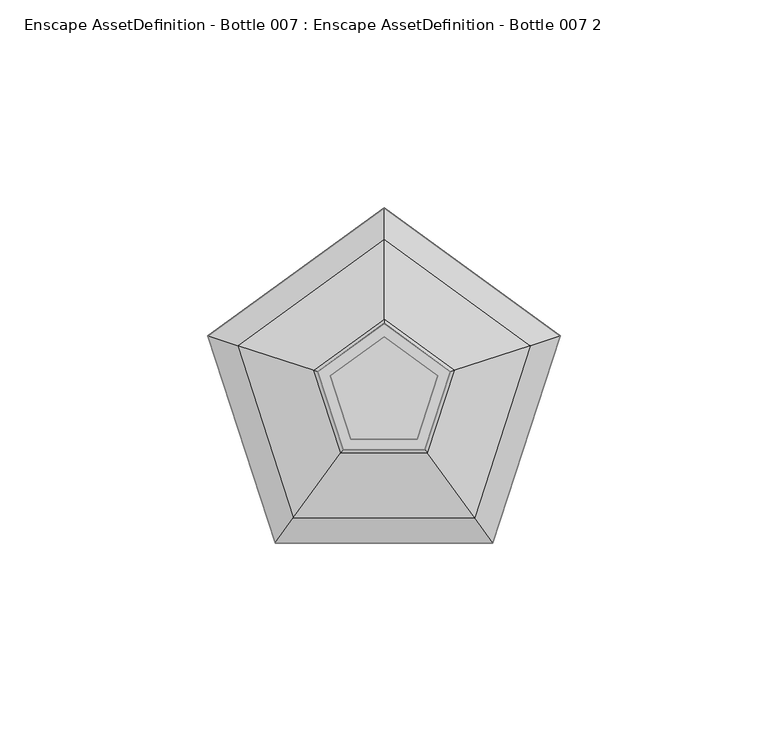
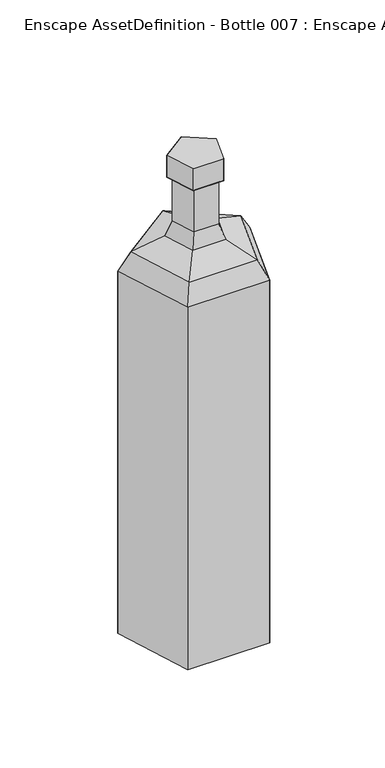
"""IFC4 building model written with IfcOpenShell, lengths in millimetres: geographic element geometry, Enscape AssetDefinition - Bottle 007 : Enscape AssetDefinition - Bottle 007 2."""

import ifcopenshell
import ifcopenshell.guid

model = None  # the IFC model being written
_history = None  # IfcOwnerHistory: only IFC2X3 demands one
_inside = {}  # id of a spatial element -> (the spatial element, [elements in it])
_under = {}  # id of a project, library or spatial element -> (it, [spatial elements below it])
_declared = {}  # id of a project -> (the project, [libraries it declares])
_typed = {}  # id of a type object -> (the type object, [elements of that type])
_made_of = {}  # id of a material, layer set ... -> (it, [elements and type objects made of it])


def new_model(schema):
    """Start an empty IFC model of exactly this schema.

    Asked for "IFC4X3", IfcOpenShell would pick the latest addendum, in which some entities
    have other attributes; the version numbers below select the first issue.
    IFC2X3 requires an IfcOwnerHistory on every rooted entity: one is made here for all.
    """
    global model, _history
    if schema == "IFC4X3":
        model = ifcopenshell.file(schema_version=(4, 3, 0, 0))
    else:
        model = ifcopenshell.file(schema=schema)
    _inside.clear()
    _under.clear()
    _declared.clear()
    _typed.clear()
    _made_of.clear()
    _history = None
    if model.schema == "IFC2X3":
        org = make("IfcOrganization", Name="unknown")
        user = make(
            "IfcPersonAndOrganization",
            ThePerson=make("IfcPerson", FamilyName="unknown"),
            TheOrganization=org,
        )
        app = make(
            "IfcApplication",
            ApplicationDeveloper=org,
            Version="unknown",
            ApplicationFullName="unknown",
            ApplicationIdentifier="unknown",
        )
        _history = make(
            "IfcOwnerHistory",
            OwningUser=user,
            OwningApplication=app,
            ChangeAction="ADDED",
            CreationDate=0,
        )
    return model


def make(cls, **values):
    """One entity of the class cls with the attributes given. An attribute that is None is left unset."""
    return model.create_entity(
        cls, **{name: value for name, value in values.items() if value is not None}
    )


def rooted(cls, **values):
    """An entity with a GlobalId (a new one), such as an element, a storey or a relation."""
    return make(cls, GlobalId=ifcopenshell.guid.new(), OwnerHistory=_history, **values)


def si_unit(unit_type, name, prefix=None):
    """IfcSIUnit, for example si_unit("LENGTHUNIT", "METRE", prefix="MILLI")."""
    return make("IfcSIUnit", UnitType=unit_type, Prefix=prefix, Name=name)


def assignment(units):
    """IfcUnitAssignment: the units of a project."""
    return None if units is None else make("IfcUnitAssignment", Units=units)


def point(xyz):
    """IfcCartesianPoint."""
    return None if xyz is None else make("IfcCartesianPoint", Coordinates=xyz)


def direction(xyz):
    """IfcDirection."""
    return None if xyz is None else make("IfcDirection", DirectionRatios=xyz)


def frame(location, z_axis=None, x_axis=None):
    """IfcAxis2Placement3D, a coordinate frame: its origin and axes. An axis left out is left unset."""
    return make(
        "IfcAxis2Placement3D",
        Location=point(location),
        Axis=direction(z_axis),
        RefDirection=direction(x_axis),
    )


def origin():
    """The frame at (0, 0, 0) with its axes left unset."""
    return frame((0.0, 0.0, 0.0))


def place(relative_to, where):
    """IfcLocalPlacement: puts the frame where relative to a parent placement (None: the world)."""
    return make(
        "IfcLocalPlacement", PlacementRelTo=relative_to, RelativePlacement=where
    )


def context(
    kind, dimensions, precision=None, world=None, true_north=None, identifier=None
):
    """IfcGeometricRepresentationContext, for example the 3D "Model" context."""
    return make(
        "IfcGeometricRepresentationContext",
        ContextIdentifier=identifier,
        ContextType=kind,
        CoordinateSpaceDimension=dimensions,
        Precision=precision,
        WorldCoordinateSystem=world,
        TrueNorth=true_north,
    )


def project(units=None, contexts=None):
    """IfcProject with its units and contexts."""
    return rooted(
        "IfcProject",
        Name="project",
        RepresentationContexts=contexts,
        UnitsInContext=assignment(units),
    )


def spatial(cls, under=None, at=None, **own):
    """A site, building, storey or space (cls), placed at a placement, below another one or the project."""
    s = rooted(cls, ObjectPlacement=at, **own)
    if under is not None:
        _under.setdefault(under.id(), (under, []))[1].append(s)
    return s


def point_list(points):
    """IfcCartesianPointList2D or 3D."""
    cls = (
        "IfcCartesianPointList2D" if len(points[0]) == 2 else "IfcCartesianPointList3D"
    )
    return make(cls, CoordList=points)


def triangles(points, corners, closed=None, point_numbers=None):
    """IfcTriangulatedFaceSet: each triangle names its three corners, points numbered from 1."""
    return make(
        "IfcTriangulatedFaceSet",
        Coordinates=point_list(points),
        Closed=closed,
        CoordIndex=corners,
        PnIndex=point_numbers,
    )


def shape(context_of_items, identifier, shape_type, items):
    """IfcShapeRepresentation: the items that make up one representation, for example the "Body"."""
    return make(
        "IfcShapeRepresentation",
        ContextOfItems=context_of_items,
        RepresentationIdentifier=identifier,
        RepresentationType=shape_type,
        Items=items,
    )


def source(mapping_origin, context_of_items, identifier, shape_type, items):
    """IfcRepresentationMap: a shape defined once, which mapped items show again and again."""
    return make(
        "IfcRepresentationMap",
        MappingOrigin=mapping_origin,
        MappedRepresentation=shape(context_of_items, identifier, shape_type, items),
    )


def transform(
    local_origin,
    x_axis=None,
    y_axis=None,
    z_axis=None,
    scale=None,
    scale2=None,
    scale3=None,
    uniform=True,
):
    """IfcCartesianTransformationOperator3D, or its non-uniform kind. x_axis, y_axis, z_axis: its Axis1, 2, 3."""
    if uniform:
        return make(
            "IfcCartesianTransformationOperator3D",
            Axis1=direction(x_axis),
            Axis2=direction(y_axis),
            LocalOrigin=point(local_origin),
            Scale=scale,
            Axis3=direction(z_axis),
        )
    return make(
        "IfcCartesianTransformationOperator3DnonUniform",
        Axis1=direction(x_axis),
        Axis2=direction(y_axis),
        LocalOrigin=point(local_origin),
        Scale=scale,
        Axis3=direction(z_axis),
        Scale2=scale2,
        Scale3=scale3,
    )


def mapped(mapping_source, mapping_target):
    """IfcMappedItem: shows the shape of a source again, moved by a transform."""
    return make(
        "IfcMappedItem", MappingSource=mapping_source, MappingTarget=mapping_target
    )


def made_of(thing, what):
    """Note that an element or type object is made of a material, layer set ...; save() writes the relation."""
    if what is not None:
        _made_of.setdefault(what.id(), (what, []))[1].append(thing)
    return thing


def element(
    cls,
    number,
    at=None,
    inside=None,
    cuts=None,
    type_object=None,
    material=None,
    context=None,
    identifier="Body",
    shape_type=None,
    held_by="IfcProductDefinitionShape",
    body=None,
    shapes=None,
    **own,
):
    """One element of the class cls, such as IfcWall. Its Tag is "e" and its number.

    at: its placement. inside: the storey or other place that contains it. cuts: it is an
    opening in that element (IfcRelVoidsElement). A single representation is given by context,
    identifier, shape_type and body (its items); several are given by shapes. held_by: the class
    of the entity that holds the representations. save() writes the other relations.
    """
    e = rooted(cls, Tag="e%d" % number, ObjectPlacement=at, **own)
    if body is not None:
        shapes = [shape(context, identifier, shape_type, body)]
    if shapes is not None:
        e.Representation = make(held_by, Representations=shapes)
    if inside is not None:
        _inside.setdefault(inside.id(), (inside, []))[1].append(e)
    if cuts is not None:
        rooted(
            "IfcRelVoidsElement", RelatingBuildingElement=cuts, RelatedOpeningElement=e
        )
    if type_object is not None:
        _typed.setdefault(type_object.id(), (type_object, []))[1].append(e)
    return made_of(e, material)


def aggregate(whole, parts):
    """IfcRelAggregates: a whole, such as a stair, and the parts it consists of."""
    return rooted("IfcRelAggregates", RelatingObject=whole, RelatedObjects=parts)


def save(model, path):
    """Write the relations noted so far, then the file.

    IfcRelAggregates (storeys below a building ...), IfcRelContainedInSpatialStructure (elements
    in a storey), IfcRelDefinesByType, IfcRelAssociatesMaterial and IfcRelDeclares: one each for
    every whole, place, type object, material and project.
    """
    for whole, parts in _under.values():
        aggregate(whole, parts)
    for where, things in _inside.values():
        rooted(
            "IfcRelContainedInSpatialStructure",
            RelatedElements=things,
            RelatingStructure=where,
        )
    for kind, things in _typed.values():
        rooted("IfcRelDefinesByType", RelatedObjects=things, RelatingType=kind)
    for what, things in _made_of.values():
        rooted("IfcRelAssociatesMaterial", RelatedObjects=things, RelatingMaterial=what)
    for by, libraries in _declared.values():
        rooted("IfcRelDeclares", RelatingContext=by, RelatedDefinitions=libraries)
    model.write(path)


def enscape_assetdefinition_bottle_007_enscape_assetdefinition_5efa946b(model_context):
    return source(origin(), model_context, "Body", "Tessellation", [
        triangles([(26.1968635, -36.0568789, 0.0), (26.1968635, -36.0568789, 245.5309433), (-26.1968544, -36.0568789, 245.5309433), (-26.1968544, -36.0568789, 0.0), (42.3874064, 13.7725071, 245.5309433), (-42.3874064, 13.7724992, 245.5309433), (-42.3874064, 13.7724992, 0.0), (35.2397458, 11.4500937, 257.5481785), (21.7793574, -29.9767109, 257.5481785), (-21.7793574, -29.9767222, 257.5481785), (-16.9295387, 5.5007385, 265.7305824), (-35.2397458, 11.4500846, 257.5481785), (10.4630355, -14.4011297, 265.7305824), (-8.0079772, -11.0220346, 275.1929227), (-10.4630264, -14.4011297, 265.7305824), (0.0, 17.8007723, 265.7305824), (0.0, 37.0532638, 257.5481785), (0.0, 44.5687594, 245.5309433), (42.3874064, 13.7725071, 0.0), (0.0, 44.5687594, 0.0), (16.9295478, 5.5007475, 265.7305824), (0.0, 13.6239856, 275.1929227), (-12.9571738, 4.2100452, 275.1929227), (12.9571829, 4.2100452, 275.1929227), (0.0, 13.6239856, 305.2582932), (0.0, 16.7483838, 305.2582932), (12.9571829, 4.2100452, 305.2582932), (8.0079772, -11.0220346, 275.1929227), (8.0079772, -11.0220346, 305.2582932), (0.0, 16.7483838, 320.0560092), (15.928663, 5.1755431, 305.2582932), (-8.0079772, -11.0220346, 305.2582932), (15.928663, 5.1755431, 320.0560092), (9.8444572, -13.5497259, 320.0560092), (9.8444572, -13.5497259, 305.2582932), (-9.8444493, -13.5497259, 305.2582932), (-12.9571738, 4.2100452, 305.2582932), (-9.8444493, -13.5497259, 320.0560092), (0.0, 0.0, 320.0560092), (-15.928663, 5.1755346, 320.0560092), (-15.928663, 5.1755346, 305.2582932)], [[37, 41, 26], [40, 26, 41], [38, 40, 41], [38, 39, 40], [40, 30, 26], [40, 39, 30], [30, 39, 33], [33, 39, 34], [34, 39, 38], [34, 38, 36], [36, 41, 37], [38, 41, 36], [32, 37, 23], [36, 37, 32], [32, 23, 14], [33, 34, 35], [35, 36, 32], [34, 36, 35], [30, 33, 31], [33, 35, 31], [30, 31, 26], [31, 35, 29], [29, 32, 14], [35, 32, 29], [29, 14, 28], [27, 29, 28], [31, 29, 27], [25, 26, 31], [25, 31, 27], [37, 26, 25], [37, 25, 22], [37, 22, 23], [25, 27, 24], [27, 28, 24], [25, 24, 22], [13, 28, 14], [24, 28, 13], [22, 24, 21], [24, 13, 21], [23, 22, 16], [22, 21, 16], [8, 21, 13], [16, 21, 8], [5, 1, 19], [18, 5, 19], [18, 19, 20], [17, 8, 5], [17, 5, 18], [16, 8, 17], [11, 16, 17], [23, 16, 11], [15, 14, 23], [13, 14, 15], [15, 23, 11], [12, 17, 18], [15, 11, 12], [11, 17, 12], [6, 18, 20], [12, 18, 6], [6, 20, 7], [10, 12, 6], [13, 15, 10], [15, 12, 10], [8, 13, 9], [13, 10, 9], [9, 10, 3], [3, 6, 7], [10, 6, 3], [3, 7, 4], [8, 9, 2], [5, 2, 1], [2, 3, 4], [9, 3, 2], [8, 2, 5], [2, 4, 1]], closed=False),
    ])


if __name__ == "__main__":
    model = new_model("IFC4")
    model_context = context("Model", 3, world=origin())
    ifc_project = project(units=[si_unit("LENGTHUNIT", "METRE", prefix="MILLI")], contexts=[model_context])
    site = spatial("IfcSite", under=ifc_project)
    building = spatial("IfcBuilding", under=site)
    placement = place(None, origin())
    enscape_assetdefinition_bottle_007_enscape_assetdefinition_shape = enscape_assetdefinition_bottle_007_enscape_assetdefinition_5efa946b(model_context)
    element("IfcGeographicElement", 1, ObjectType="Enscape AssetDefinition - Bottle 007 : Enscape AssetDefinition - Bottle 007 2", at=placement, inside=building, context=model_context, shape_type="MappedRepresentation", body=[
        mapped(enscape_assetdefinition_bottle_007_enscape_assetdefinition_shape, transform((0.0, 0.0, 0.0), x_axis=(1.0, 0.0, 0.0), y_axis=(0.0, 1.0, 0.0), z_axis=(0.0, 0.0, 1.0))),
    ])
    save(model, "model.ifc")
